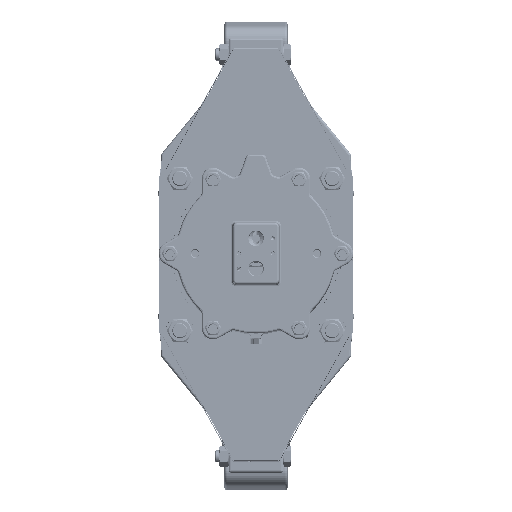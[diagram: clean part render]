
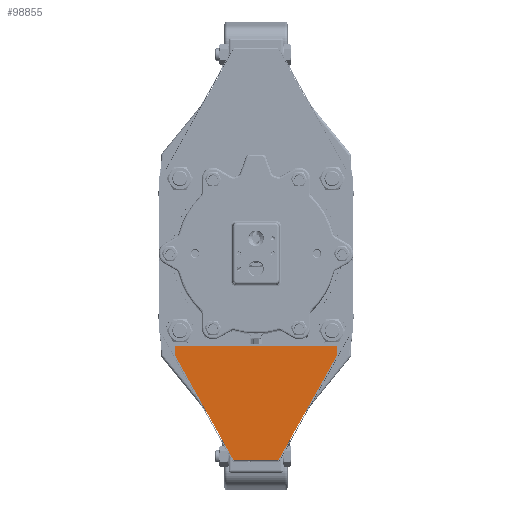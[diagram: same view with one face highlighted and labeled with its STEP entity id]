
A CAD part, top view. The second image highlights one B-rep face of the part: STEP entity #98855.
In plain terms, the highlighted planar face has unit normal (0, 0, 1).
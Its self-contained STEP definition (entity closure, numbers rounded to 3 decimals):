
#5600=PLANE('',#106172);
#8865=FACE_OUTER_BOUND('',#14933,.T.);
#14933=EDGE_LOOP('',(#73521,#73522,#73523,#73524,#73525,#73526));
#28481=LINE('',#154852,#35529);
#28482=LINE('',#154854,#35530);
#28483=LINE('',#154856,#35531);
#28484=LINE('',#154858,#35532);
#28485=LINE('',#154860,#35533);
#28486=LINE('',#154861,#35534);
#35529=VECTOR('',#121027,10.);
#35530=VECTOR('',#121028,10.);
#35531=VECTOR('',#121029,10.);
#35532=VECTOR('',#121030,10.);
#35533=VECTOR('',#121031,10.);
#35534=VECTOR('',#121032,10.);
#43894=VERTEX_POINT('',#154850);
#43895=VERTEX_POINT('',#154851);
#43896=VERTEX_POINT('',#154853);
#43897=VERTEX_POINT('',#154855);
#43898=VERTEX_POINT('',#154857);
#43899=VERTEX_POINT('',#154859);
#54958=EDGE_CURVE('',#43894,#43895,#28481,.T.);
#54959=EDGE_CURVE('',#43896,#43895,#28482,.T.);
#54960=EDGE_CURVE('',#43897,#43896,#28483,.T.);
#54961=EDGE_CURVE('',#43898,#43897,#28484,.T.);
#54962=EDGE_CURVE('',#43899,#43898,#28485,.T.);
#54963=EDGE_CURVE('',#43894,#43899,#28486,.T.);
#73521=ORIENTED_EDGE('',*,*,#54958,.T.);
#73522=ORIENTED_EDGE('',*,*,#54959,.F.);
#73523=ORIENTED_EDGE('',*,*,#54960,.F.);
#73524=ORIENTED_EDGE('',*,*,#54961,.F.);
#73525=ORIENTED_EDGE('',*,*,#54962,.F.);
#73526=ORIENTED_EDGE('',*,*,#54963,.F.);
#98855=ADVANCED_FACE('',(#8865),#5600,.T.);
#106172=AXIS2_PLACEMENT_3D('',#154849,#121025,#121026);
#121025=DIRECTION('center_axis',(0.,0.,
1.));
#121026=DIRECTION('ref_axis',(1.,0.,0.));
#121027=DIRECTION('',(1.,0.,0.));
#121028=DIRECTION('',(-0.488,-0.873,0.));
#121029=DIRECTION('',(0.,-1.,0.));
#121030=DIRECTION('',(1.,0.,0.));
#121031=DIRECTION('',(0.,1.,0.));
#121032=DIRECTION('',(-0.488,0.873,0.));
#154849=CARTESIAN_POINT('Origin',(0.,-177.121,
1034.25));
#154850=CARTESIAN_POINT('',(-29.591,-269.954,1034.25));
#154851=CARTESIAN_POINT('',(29.591,-269.954,1034.25));
#154852=CARTESIAN_POINT('',(-14.796,-269.954,1034.25));
#154853=CARTESIAN_POINT('',(106.326,-132.654,1034.25));
#154854=CARTESIAN_POINT('',(29.2,-270.654,1034.25));
#154855=CARTESIAN_POINT('',(106.326,-120.654,1034.25));
#154856=CARTESIAN_POINT('',(106.326,-132.654,1034.25));
#154857=CARTESIAN_POINT('',(-106.326,-120.654,1034.25));
#154858=CARTESIAN_POINT('',(106.326,-120.654,1034.25));
#154859=CARTESIAN_POINT('',(-106.326,-132.654,1034.25));
#154860=CARTESIAN_POINT('',(-106.326,-120.654,1034.25));
#154861=CARTESIAN_POINT('',(-106.326,-132.654,1034.25));
